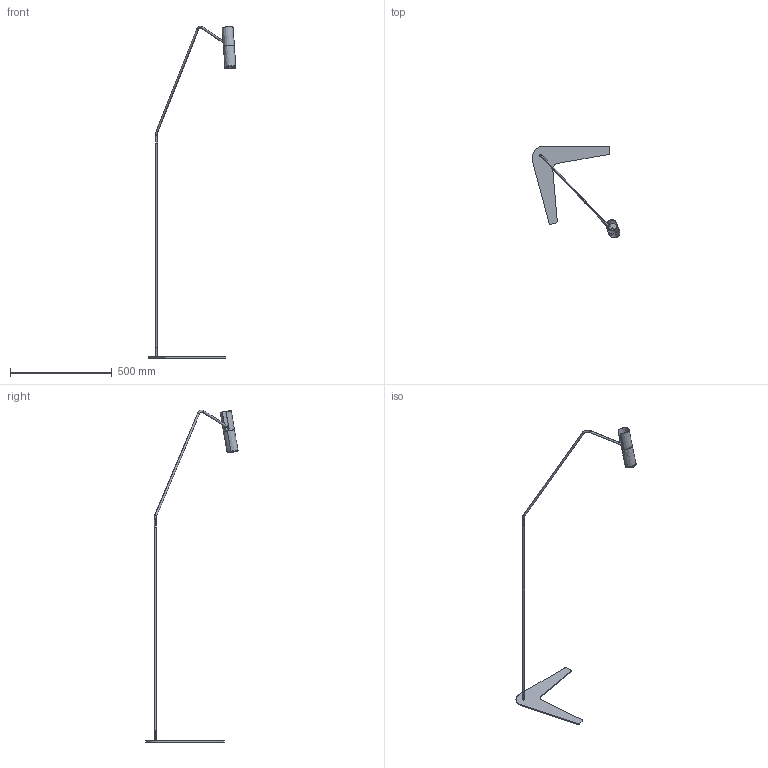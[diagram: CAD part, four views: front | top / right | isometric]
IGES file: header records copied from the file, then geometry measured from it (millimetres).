
Start section: SolidWorks IGES file using analytic representation for surfaces
Global section: file name: C:\Users\Asia\Desktop\Super Eye_6506,6493,6500.IGS; native system: SolidWorks 2016; preprocessor: SolidWorks 2016; author: Asia; date: 160803.115221; units: millimetre
Bounding box: 431.13 x 453.61 x 1629.19 mm (x, y, z)
Surface area: 237603.3 mm2 (no closed solid volume)
Topology: 0 solids, 0 shells, 91 faces, 1666 edges, 1666 vertices
Faces by surface type: revolution 50, bspline 41
